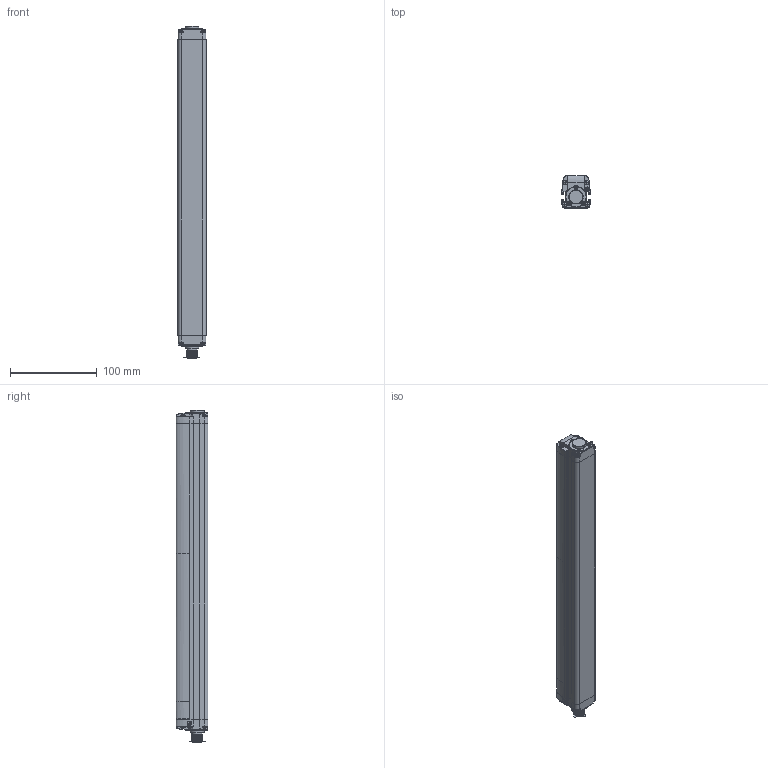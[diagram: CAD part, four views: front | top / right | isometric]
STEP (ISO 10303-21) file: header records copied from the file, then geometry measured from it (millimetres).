
FILE_DESCRIPTION(/* description */ (''),/* implementation_level */ '2;1');
FILE_NAME(/* name */ 'DSD-0170.stp',/* time_stamp */ '2020-07-16T12:40:42+02:00',/* author */ (''),/* organization */ (''),/* preprocessor_version */ 'ST-DEVELOPER v16.7',/* originating_system */ 'SIEMENS PLM Software NX 12.0',/* authorisation */ '');
FILE_SCHEMA (('AUTOMOTIVE_DESIGN { 1 0 10303 214 3 1 1 1 }'));
Products named in the file (1): AP025822_00_1-DSD-0170
Bounding box: 32.3 x 36.9 x 382.84 mm (x, y, z)
Volume: 352357 mm3; surface area: 93358.8 mm2
Topology: 11 solids, 813 shells, 1660 faces, 5260 edges, 4151 vertices
Faces by surface type: cylinder 614, bspline 568, plane 384, sphere 51, cone 35, torus 8
Full cylindrical faces by diameter (mm): 0.8 x16, 1.5 x6, 2 x6, 2.05 x4, 2.5 x12, 2.7 x10, 2.9 x6, 3 x12, 3.4 x6, 3.6 x12, 4.7 x2, 5 x10, 5.3 x2, 7.5 x1, 8 x1, 8.3 x1, 9.3 x1, 9.5 x1, 9.55 x1, 10.5 x1, 11 x2, 12 x12, 13.97 x1, 14.3 x1, 16 x2
Entity records: 86790 total; most frequent: CARTESIAN_POINT 37193, ORIENTED_EDGE 6875, DIRECTION 6118, EDGE_CURVE 4971, VERTEX_POINT 4143, AXIS2_PLACEMENT_3D 2409, EDGE_LOOP 1968, PRESENTATION_STYLE_ASSIGNMENT 1663
